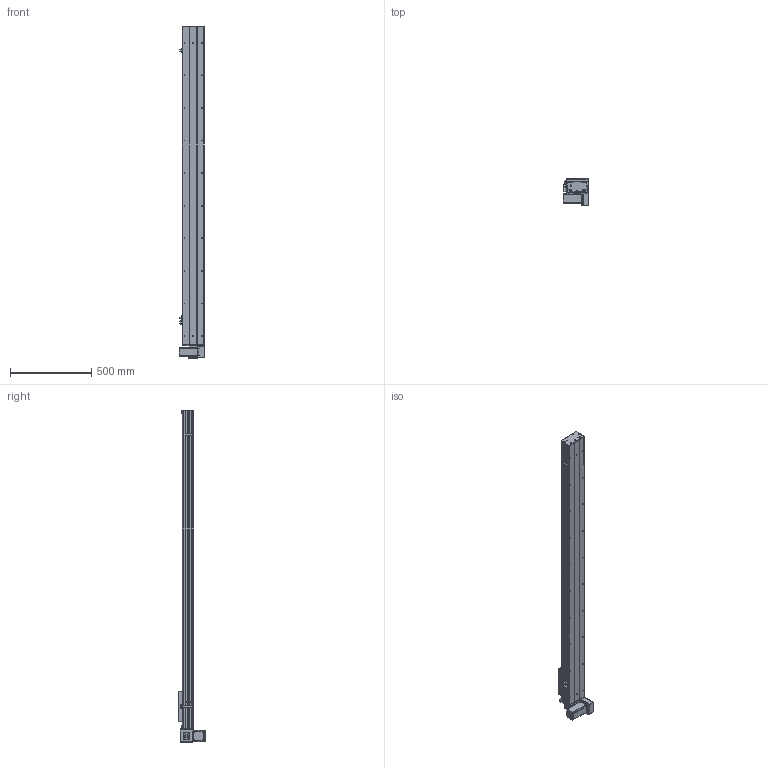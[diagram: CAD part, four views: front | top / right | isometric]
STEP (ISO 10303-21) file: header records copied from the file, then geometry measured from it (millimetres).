
FILE_DESCRIPTION (( 'STEP AP203' ), '1' );
FILE_NAME ('Y135CB-D90-S1650-BM-P400W.STEP', '2020-02-19T01:31:54', ( '微软用户' ), ( '微软中国' ), 'SwSTEP 2.0', 'SolidWorks 2017', '' );
FILE_SCHEMA (( 'CONFIG_CONTROL_DESIGN' ));
Length unit declared in the file: millimetre
Products named in the file (18): C-雄赽釱--; 0B-萇儂楊擘啣; Y10B--々湍喘謫眊--666; san松下电机400不带刹车----; 00B-俋欶BM--; 5CB --掛极耜裔啣-; Y135CB-耜裔; Y10B-耜蚾蟀諉啣----; C-詩湍揤踡え-陔; 135CB---遴掛极.-; Y135CB-D90-S1650-BM-P400W; 135CB--詩湍-CE; 35CB---喘謫眊楊擘啣; Y100-135俋离換覜ん--; Y135C-陔俋离換覜結え-; 0B-埴倛裔啣; 5C--俋欶; 0B-源倛裔啣
Assembly tree (21 placements, depth 2):
  Y135CB-D90-S1650-BM-P400W
    Y135CB-耜裔
    135CB---遴掛极.-
    35CB---喘謫眊楊擘啣
    0B-埴倛裔啣
    0B-源倛裔啣
    0B-萇儂楊擘啣
    san松下电机400不带刹车----
    5CB --掛极耜裔啣-  x2
    C-詩湍揤踡え-陔  x2
    135CB--詩湍-CE
    Y100-135俋离換覜ん--  x3
    Y135C-陔俋离換覜結え-
    5C--俋欶
    C-雄赽釱--
    Y10B--々湍喘謫眊--666
    00B-俋欶BM--
    Y10B-耜蚾蟀諉啣----
Bounding box: 157 x 163.3 x 2038 mm (x, y, z)
Volume: 6074501.9 mm3; surface area: 2393833.5 mm2
Topology: 21 solids, 21 shells, 957 faces, 2581 edges, 1710 vertices
Faces by surface type: cylinder 485, plane 456, cone 16
Entity records: 29955 total; most frequent: DIRECTION 4977, CARTESIAN_POINT 4944, ORIENTED_EDGE 4638, EDGE_CURVE 2319, AXIS2_PLACEMENT_3D 1819, VERTEX_POINT 1538, VECTOR 1339, LINE 1339
